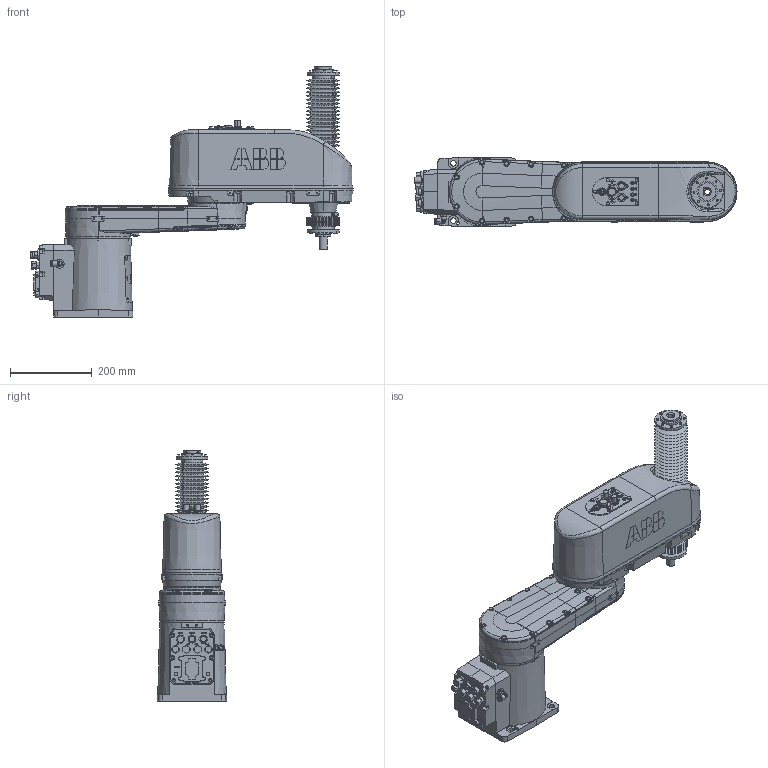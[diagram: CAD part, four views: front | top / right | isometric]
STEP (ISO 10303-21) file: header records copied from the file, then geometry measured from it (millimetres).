
FILE_DESCRIPTION (( 'STEP AP214' ), '1' );
FILE_NAME ('IRB920T_6kg-550-145-CR-STD_OmniCore_rev00_Assembly.step', '2021-10-28T02:20:38', ( '' ), ( '' ), 'SwSTEP 2.0', 'SolidWorks 2018', '' );
FILE_SCHEMA (( 'AUTOMOTIVE_DESIGN' ));
Length unit declared in the file: millimetre
Products named in the file (5): IRB920T_6kg-550-145-IP54CR-STD_OmniCore_rev00_LINK2_CAD; IRB920T_6kg-550-145-IP54CR-STD_OmniCore_rev00_LINK1_CAD; IRB920T_6kg-550-145-CR-STD_OmniCore_rev00_LINK0_CAD; IRB920T_6kg-550-145-CR-STD_OmniCore_rev00_Assembly; IRB920T_6kg-550-145-IP54CR-STD_OmniCore_rev00_LINK3_CAD
Assembly tree (4 placements, depth 2):
  IRB920T_6kg-550-145-CR-STD_OmniCore_rev00_Assembly
    IRB920T_6kg-550-145-CR-STD_OmniCore_rev00_LINK0_CAD
    IRB920T_6kg-550-145-IP54CR-STD_OmniCore_rev00_LINK1_CAD
    IRB920T_6kg-550-145-IP54CR-STD_OmniCore_rev00_LINK2_CAD
    IRB920T_6kg-550-145-IP54CR-STD_OmniCore_rev00_LINK3_CAD
Bounding box: 787 x 170 x 610.8 mm (x, y, z)
Volume: 19865956.2 mm3; surface area: 1029498.3 mm2
Topology: 4 solids, 4 shells, 2515 faces, 6342 edges, 4067 vertices
Faces by surface type: plane 1269, cylinder 453, bspline 389, cone 387, torus 14, sphere 3
Entity records: 105522 total; most frequent: CARTESIAN_POINT 38449, ORIENTED_EDGE 12534, DIRECTION 10315, EDGE_CURVE 6267, VERTEX_POINT 4066, LINE 3663, VECTOR 3663, AXIS2_PLACEMENT_3D 3326
